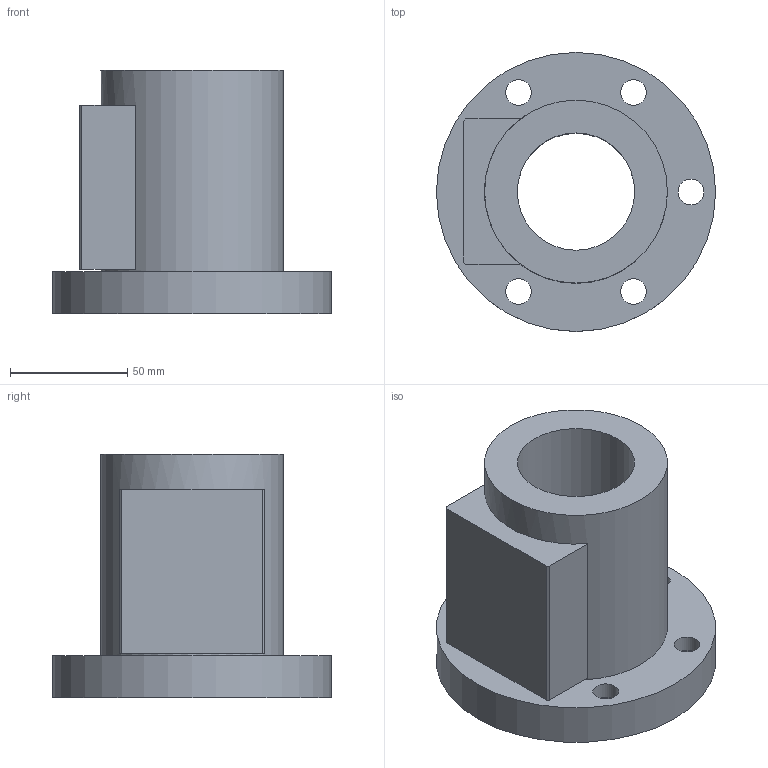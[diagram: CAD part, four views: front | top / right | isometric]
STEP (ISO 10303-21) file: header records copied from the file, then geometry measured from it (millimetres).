
FILE_DESCRIPTION(/* description */ (''),/* implementation_level */ '2;1');
FILE_NAME(/* name */ '50-10B2',/* time_stamp */ '2006-07-31T11:48:16+08:00',/* author */ (''),/* organization */ (''),/* preprocessor_version */ 'ST-DEVELOPER v9',/* originating_system */ 'UGS - NX 4.0',/* authorisation */ '');
FILE_SCHEMA (('CONFIG_CONTROL_DESIGN'));
Length unit declared in the file: millimetre
Products named in the file (1): 50-10B2
Bounding box: 119 x 119 x 104 mm (x, y, z)
Volume: 449445 mm3; surface area: 70124.1 mm2
Topology: 1 solids, 1 shells, 30 faces, 67 edges, 46 vertices
Faces by surface type: plane 17, cylinder 13
Full cylindrical faces by diameter (mm): 11 x5, 17.5 x5, 50 x1, 78 x1, 119 x1
Entity records: 860 total; most frequent: DIRECTION 140, CARTESIAN_POINT 123, ORIENTED_EDGE 100, EDGE_LOOP 62, AXIS2_PLACEMENT_3D 59, EDGE_CURVE 50, FACE_BOUND 45, VERTEX_POINT 42
